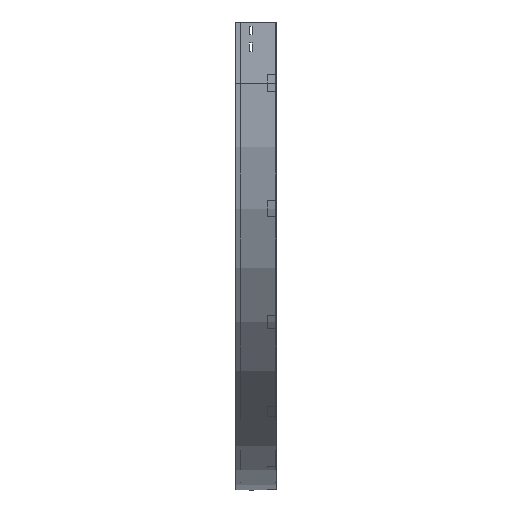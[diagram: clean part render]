
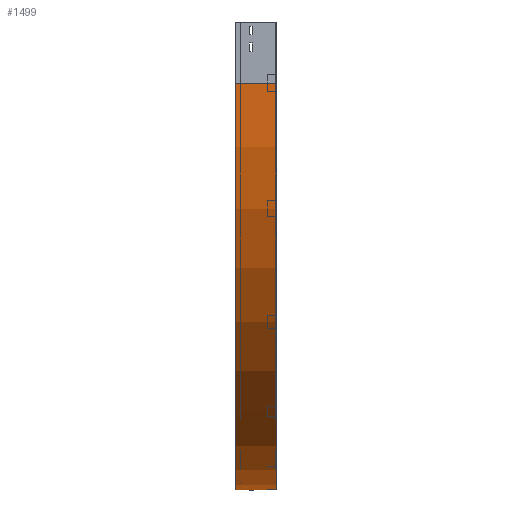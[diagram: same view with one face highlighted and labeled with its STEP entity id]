
A CAD part, left-side view. The second image highlights one B-rep face of the part: STEP entity #1499.
In plain terms, the highlighted cylindrical face has radius 1000 mm (diameter 2000 mm), a partial arc.
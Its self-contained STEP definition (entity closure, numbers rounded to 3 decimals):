
#234 = EDGE_CURVE ( 'NONE', #3273, #3802, #1904, .T. ) ;
#253 = CIRCLE ( 'NONE', #757, 1000. ) ;
#322 = FACE_OUTER_BOUND ( 'NONE', #1414, .T. ) ;
#362 = EDGE_CURVE ( 'NONE', #2936, #3802, #3785, .T. ) ;
#497 = DIRECTION ( 'NONE',  ( 0., -1., 0. ) ) ;
#714 = CARTESIAN_POINT ( 'NONE',  ( 0., 0., -150. ) ) ;
#736 = CARTESIAN_POINT ( 'NONE',  ( 1000., 0., -150. ) ) ;
#757 = AXIS2_PLACEMENT_3D ( 'NONE', #1307, #3637, #1269 ) ;
#989 = ORIENTED_EDGE ( 'NONE', *, *, #234, .F. ) ;
#1269 = DIRECTION ( 'NONE',  ( -1., 0., 0. ) ) ;
#1290 = CARTESIAN_POINT ( 'NONE',  ( 1000., 0., -150. ) ) ;
#1303 = VERTEX_POINT ( 'NONE', #2957 ) ;
#1307 = CARTESIAN_POINT ( 'NONE',  ( 1000., 100., -150. ) ) ;
#1349 = AXIS2_PLACEMENT_3D ( 'NONE', #736, #3164, #2223 ) ;
#1359 = ORIENTED_EDGE ( 'NONE', *, *, #3178, .F. ) ;
#1414 = EDGE_LOOP ( 'NONE', ( #989, #1359, #2329, #2135 ) ) ;
#1426 = CARTESIAN_POINT ( 'NONE',  ( 1000., 0., -1150. ) ) ;
#1445 = CARTESIAN_POINT ( 'NONE',  ( 0., 0., -150. ) ) ;
#1499 = ADVANCED_FACE ( 'NONE', ( #322 ), #2786, .T. ) ;
#1529 = DIRECTION ( 'NONE',  ( 0., -1., 0. ) ) ;
#1904 = CIRCLE ( 'NONE', #1349, 1000. ) ;
#1960 = AXIS2_PLACEMENT_3D ( 'NONE', #1290, #1529, #3041 ) ;
#2135 = ORIENTED_EDGE ( 'NONE', *, *, #362, .T. ) ;
#2158 = VECTOR ( 'NONE', #3799, 1000. ) ;
#2223 = DIRECTION ( 'NONE',  ( -1., 0., 0. ) ) ;
#2329 = ORIENTED_EDGE ( 'NONE', *, *, #3042, .T. ) ;
#2595 = VECTOR ( 'NONE', #497, 1000. ) ;
#2642 = CARTESIAN_POINT ( 'NONE',  ( 1000., 100., -1150. ) ) ;
#2750 = CARTESIAN_POINT ( 'NONE',  ( 1000., 0., -1150. ) ) ;
#2786 = CYLINDRICAL_SURFACE ( 'NONE', #1960, 1000. ) ;
#2936 = VERTEX_POINT ( 'NONE', #2642 ) ;
#2957 = CARTESIAN_POINT ( 'NONE',  ( 0., 100., -150. ) ) ;
#3041 = DIRECTION ( 'NONE',  ( 0., 0., -1. ) ) ;
#3042 = EDGE_CURVE ( 'NONE', #1303, #2936, #253, .T. ) ;
#3164 = DIRECTION ( 'NONE',  ( 0., -1., 0. ) ) ;
#3178 = EDGE_CURVE ( 'NONE', #1303, #3273, #3192, .T. ) ;
#3192 = LINE ( 'NONE', #714, #2595 ) ;
#3273 = VERTEX_POINT ( 'NONE', #1445 ) ;
#3637 = DIRECTION ( 'NONE',  ( 0., -1., 0. ) ) ;
#3785 = LINE ( 'NONE', #1426, #2158 ) ;
#3799 = DIRECTION ( 'NONE',  ( 0., -1., 0. ) ) ;
#3802 = VERTEX_POINT ( 'NONE', #2750 ) ;
